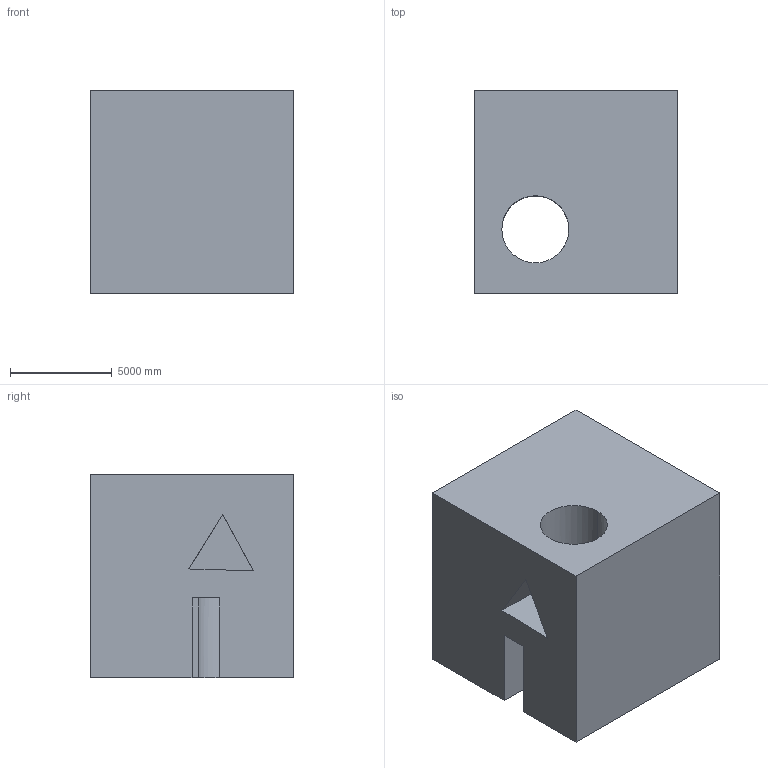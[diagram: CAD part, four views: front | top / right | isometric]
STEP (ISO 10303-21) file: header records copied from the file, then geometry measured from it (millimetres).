
FILE_DESCRIPTION (( 'STEP AP203' ), '1' );
FILE_NAME ('1254.STEP', '2022-08-18T13:24:44', ( 'user' ), ( '' ), 'SwSTEP 2.0', 'SolidWorks 2021', '' );
FILE_SCHEMA (( 'CONFIG_CONTROL_DESIGN' ));
Length unit declared in the file: centimetre
Products named in the file (1): 1254
Bounding box: 10000 x 10000 x 10000 mm (x, y, z)
Volume: 890439982754.3 mm3; surface area: 712989961.5 mm2
Topology: 1 solids, 1 shells, 18 faces, 54 edges, 36 vertices
Faces by surface type: plane 15, cylinder 3
Entity records: 689 total; most frequent: CARTESIAN_POINT 133, ORIENTED_EDGE 108, DIRECTION 90, EDGE_CURVE 54, VECTOR 40, LINE 40, VERTEX_POINT 36, AXIS2_PLACEMENT_3D 25
